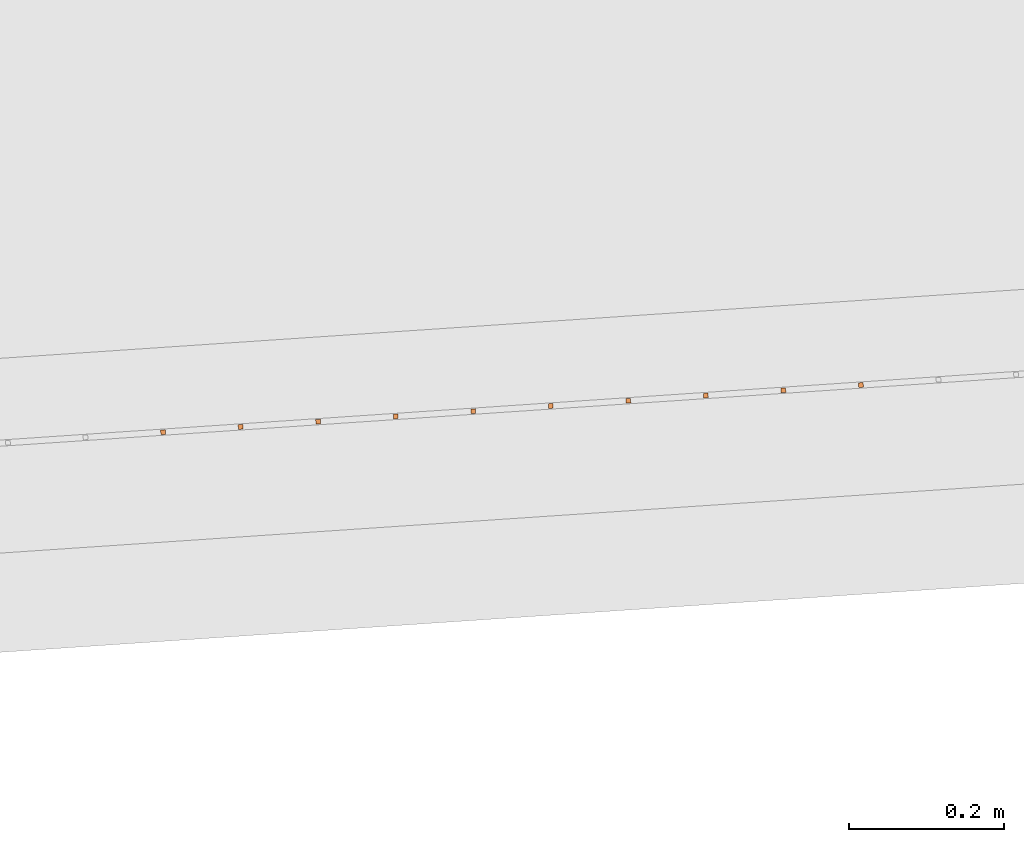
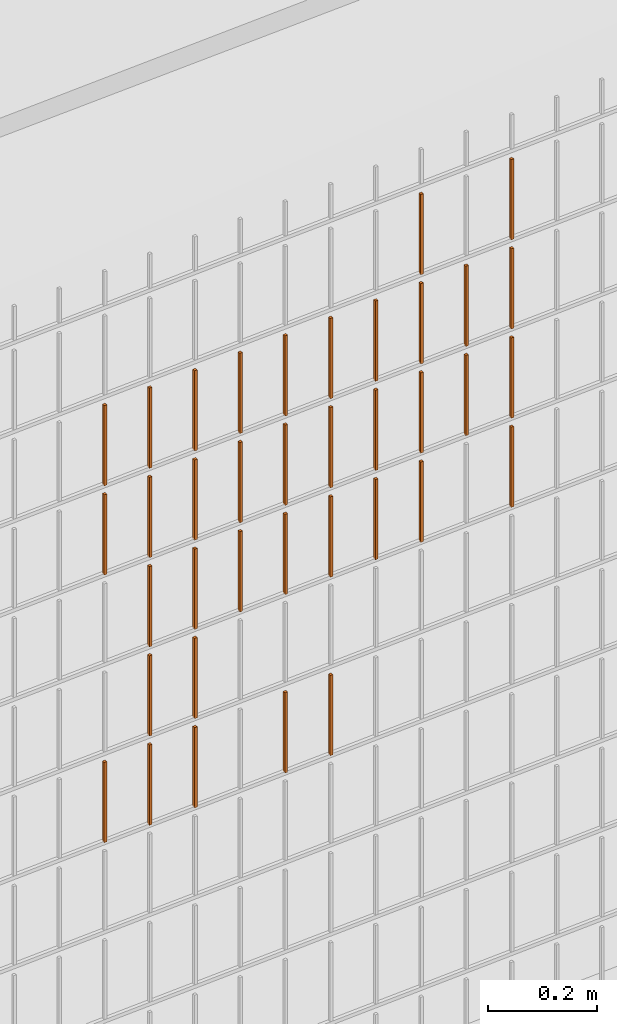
# One storey, part 272 of 1809: 37 proxies, 1 element without a shape of its own.
"""IFC2X3 building model written with IfcOpenShell, lengths in millimetres."""

from ifc_helpers import new_model, entity, si_unit, converted_unit, derived_unit, money_unit, direction, frame, origin_with_axes, place, context, subcontext, project, spatial, faceted_brep, source, transform, mapped, material, type_object, element, aggregate, save


model = new_model("IFC2X3")

# Units and contexts
model_context = context("Model", 3, precision=0.01, world=origin_with_axes(), true_north=direction((0.0, 1.0)))
body_context = subcontext(model_context, "Body", "Model", "MODEL_VIEW")
ifc_project = project(units=[si_unit("LENGTHUNIT", "METRE", prefix="MILLI"), si_unit("AREAUNIT", "SQUARE_METRE"), si_unit("VOLUMEUNIT", "CUBIC_METRE"), converted_unit("PLANEANGLEUNIT", "DEGREE", entity("IfcPlaneAngleMeasure", 0.0174532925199), si_unit("PLANEANGLEUNIT", "RADIAN"), dimensions=[0, 0, 0, 0, 0, 0, 0]), si_unit("SOLIDANGLEUNIT", "STERADIAN"), money_unit("EUR"), converted_unit("TIMEUNIT", "Year", entity("IfcTimeMeasure", 31556926.0), si_unit("TIMEUNIT", "SECOND"), dimensions=[0, 0, 1, 0, 0, 0, 0]), si_unit("MASSUNIT", "GRAM", prefix="KILO"), si_unit("THERMODYNAMICTEMPERATUREUNIT", "DEGREE_CELSIUS"), si_unit("LUMINOUSINTENSITYUNIT", "LUMEN"), si_unit("ENERGYUNIT", "JOULE", prefix="MEGA"), derived_unit("THERMALCONDUCTANCEUNIT", [(si_unit("POWERUNIT", "WATT"), 1), (si_unit("LENGTHUNIT", "METRE"), -1), (si_unit("THERMODYNAMICTEMPERATUREUNIT", "KELVIN"), -1)]), derived_unit("SPECIFICHEATCAPACITYUNIT", [(si_unit("ENERGYUNIT", "JOULE"), 1), (si_unit("MASSUNIT", "GRAM", prefix="KILO"), -1), (si_unit("THERMODYNAMICTEMPERATUREUNIT", "KELVIN"), -1)]), derived_unit("MASSDENSITYUNIT", [(si_unit("MASSUNIT", "GRAM", prefix="KILO"), 1), (si_unit("VOLUMEUNIT", "CUBIC_METRE"), -1)])], contexts=[model_context])

# Site, building, storey
site_placement = place(None, origin_with_axes())
site = spatial("IfcSite", under=ifc_project, at=site_placement, Name="Politse- ja Piirivalveameti ning Päästeameti ühishoone", CompositionType="ELEMENT")
building_placement = place(site_placement, origin_with_axes())
building = spatial("IfcBuilding", under=site, at=building_placement, Name="Politse- ja Piirivalveameti ning Päästeameti ühishoone", CompositionType="ELEMENT")
storey_placement = place(building_placement, origin_with_axes())
storey = spatial("IfcBuildingStorey", under=building, at=storey_placement, Name="Esimene korrus", CompositionType="ELEMENT", Elevation=0.0)

# Proxies
building_element_proxy_type_1 = type_object("IfcBuildingElementProxyType", Name="Railing Type", PredefinedType="NOTDEFINED")
proxy_1_placement = place(storey_placement, frame((89252.001212, -29183.4766571, 203.661247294), z_axis=(0.0, 0.0, 1.0), x_axis=(1.0, 0.0, 0.0)))
proxy_1 = element("IfcBuildingElementProxy", 1, at=proxy_1_placement, inside=storey, type_object=building_element_proxy_type_1, Name="PIIRDEAED")
ifc_material = material(Name="ET-03_Raud")
building_element_proxy_type_2 = type_object("IfcBuildingElementProxyType", Name="IfcBuildingElementProxy", PredefinedType="NOTDEFINED")
shared_shape_1 = source(origin_with_axes(), body_context, "Body", "Brep", [
    faceted_brep([(3.0, 3.0, -0.000752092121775), (-3.0, 3.0, -0.000752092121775), (-3.0, 3.0, 179.99926046), (3.0, 3.0, 179.99926046), (3.0, -3.0, 0.000752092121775), (-3.0, -3.0, 0.000752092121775), (-3.0, -3.0, 180.000764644), (3.0, -3.0, 180.000764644)], [[[0, 1, 2, 3]], [[0, 4, 5, 1]], [[1, 5, 6, 2]], [[3, 2, 6, 7]], [[4, 0, 3, 7]], [[5, 4, 7, 6]]]),
])
proxy_2_placement = place(proxy_1_placement, frame((-53404.9966627, -20905.080743, 1213.8153854), z_axis=(0.0, 0.0, 1.0), x_axis=(1.0, 0.0, 0.0)))
proxy_2 = element("IfcBuildingElementProxy", 2, at=proxy_2_placement, type_object=building_element_proxy_type_2, material=ifc_material, Name="BALUSTER - 001", context=body_context, shape_type="MappedRepresentation", body=[
    mapped(shared_shape_1, transform((0.0, 0.0, 0.0), x_axis=(-0.0673926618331, 0.997726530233, 0.0), y_axis=(-0.997726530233, -0.0673926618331, 0.0), z_axis=(0.0, 0.0, 1.0))),
])
shared_shape_2 = source(origin_with_axes(), body_context, "Body", "Brep", [
    faceted_brep([(3.0, 3.0, -0.000752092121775), (-3.0, 3.0, -0.000752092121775), (-3.0, 3.0, 179.99926046), (3.0, 3.0, 179.99926046), (3.0, -3.0, 0.000752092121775), (-3.0, -3.0, 0.000752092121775), (-3.0, -3.0, 180.000764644), (3.0, -3.0, 180.000764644)], [[[0, 1, 2, 3]], [[0, 4, 5, 1]], [[1, 5, 6, 2]], [[3, 2, 6, 7]], [[4, 0, 3, 7]], [[5, 4, 7, 6]]]),
])
proxy_3_placement = place(proxy_1_placement, frame((-53404.9966627, -20905.080743, 1813.8153854), z_axis=(0.0, 0.0, 1.0), x_axis=(1.0, 0.0, 0.0)))
proxy_3 = element("IfcBuildingElementProxy", 3, at=proxy_3_placement, type_object=building_element_proxy_type_2, material=ifc_material, Name="BALUSTER - 001", context=body_context, shape_type="MappedRepresentation", body=[
    mapped(shared_shape_2, transform((0.0, 0.0, 0.0), x_axis=(-0.0673926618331, 0.997726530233, 0.0), y_axis=(-0.997726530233, -0.0673926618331, 0.0), z_axis=(0.0, 0.0, 1.0))),
])
shared_shape_3 = source(origin_with_axes(), body_context, "Body", "Brep", [
    faceted_brep([(3.0, 3.0, -0.000752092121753), (-3.0, 3.0, -0.000752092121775), (-3.0, 3.0, 179.99926046), (3.0, 3.0, 179.99926046), (3.0, -3.0, 0.000752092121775), (-3.0, -3.0, 0.000752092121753), (-3.0, -3.0, 180.000764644), (3.0, -3.0, 180.000764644)], [[[0, 1, 2, 3]], [[0, 4, 5, 1]], [[1, 5, 6, 2]], [[3, 2, 6, 7]], [[4, 0, 3, 7]], [[5, 4, 7, 6]]]),
])
proxy_4_placement = place(proxy_1_placement, frame((-53604.5419687, -20918.5592753, 1413.76524593), z_axis=(0.0, 0.0, 1.0), x_axis=(1.0, 0.0, 0.0)))
proxy_4 = element("IfcBuildingElementProxy", 4, at=proxy_4_placement, type_object=building_element_proxy_type_2, material=ifc_material, Name="BALUSTER - 001", context=body_context, shape_type="MappedRepresentation", body=[
    mapped(shared_shape_3, transform((0.0, 0.0, 0.0), x_axis=(-0.0673926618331, 0.997726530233, 0.0), y_axis=(-0.997726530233, -0.0673926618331, 0.0), z_axis=(0.0, 0.0, 1.0))),
])
proxy_5_placement = place(proxy_1_placement, frame((-53704.3146217, -20925.2985415, 1413.74017619), z_axis=(0.0, 0.0, 1.0), x_axis=(1.0, 0.0, 0.0)))
proxy_5 = element("IfcBuildingElementProxy", 5, at=proxy_5_placement, type_object=building_element_proxy_type_2, material=ifc_material, Name="BALUSTER - 001", context=body_context, shape_type="MappedRepresentation", body=[
    mapped(shared_shape_3, transform((0.0, 0.0, 0.0), x_axis=(-0.0673926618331, 0.997726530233, 0.0), y_axis=(-0.997726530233, -0.0673926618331, 0.0), z_axis=(0.0, 0.0, 1.0))),
])
proxy_6_placement = place(proxy_1_placement, frame((-53604.5419687, -20918.5592753, 1613.76524593), z_axis=(0.0, 0.0, 1.0), x_axis=(1.0, 0.0, 0.0)))
proxy_6 = element("IfcBuildingElementProxy", 6, at=proxy_6_placement, type_object=building_element_proxy_type_2, material=ifc_material, Name="BALUSTER - 001", context=body_context, shape_type="MappedRepresentation", body=[
    mapped(shared_shape_3, transform((0.0, 0.0, 0.0), x_axis=(-0.0673926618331, 0.997726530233, 0.0), y_axis=(-0.997726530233, -0.0673926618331, 0.0), z_axis=(0.0, 0.0, 1.0))),
])
proxy_7_placement = place(proxy_1_placement, frame((-53704.3146217, -20925.2985415, 1613.74017619), z_axis=(0.0, 0.0, 1.0), x_axis=(1.0, 0.0, 0.0)))
proxy_7 = element("IfcBuildingElementProxy", 7, at=proxy_7_placement, type_object=building_element_proxy_type_2, material=ifc_material, Name="BALUSTER - 001", context=body_context, shape_type="MappedRepresentation", body=[
    mapped(shared_shape_3, transform((0.0, 0.0, 0.0), x_axis=(-0.0673926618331, 0.997726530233, 0.0), y_axis=(-0.997726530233, -0.0673926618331, 0.0), z_axis=(0.0, 0.0, 1.0))),
])
shared_shape_4 = source(origin_with_axes(), body_context, "Body", "Brep", [
    faceted_brep([(3.0, 3.0, -0.000752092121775), (-3.0, 3.0, -0.000752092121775), (-3.0, 3.0, 179.99926046), (3.0, 3.0, 179.99926046), (3.0, -3.0, 0.000752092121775), (-3.0, -3.0, 0.000752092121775), (-3.0, -3.0, 180.000764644), (3.0, -3.0, 180.000764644)], [[[0, 1, 2, 3]], [[0, 4, 5, 1]], [[1, 5, 6, 2]], [[3, 2, 6, 7]], [[4, 0, 3, 7]], [[5, 4, 7, 6]]]),
])
proxy_8_placement = place(proxy_1_placement, frame((-53205.4513566, -20891.6022106, 1413.86552488), z_axis=(0.0, 0.0, 1.0), x_axis=(1.0, 0.0, 0.0)))
proxy_8 = element("IfcBuildingElementProxy", 8, at=proxy_8_placement, type_object=building_element_proxy_type_2, material=ifc_material, Name="BALUSTER - 001", context=body_context, shape_type="MappedRepresentation", body=[
    mapped(shared_shape_4, transform((0.0, 0.0, 0.0), x_axis=(-0.0673926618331, 0.997726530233, 0.0), y_axis=(-0.997726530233, -0.0673926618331, 0.0), z_axis=(0.0, 0.0, 1.0))),
])
proxy_9_placement = place(proxy_1_placement, frame((-53205.4513566, -20891.6022106, 1613.86552488), z_axis=(0.0, 0.0, 1.0), x_axis=(1.0, 0.0, 0.0)))
proxy_9 = element("IfcBuildingElementProxy", 9, at=proxy_9_placement, type_object=building_element_proxy_type_2, material=ifc_material, Name="BALUSTER - 001", context=body_context, shape_type="MappedRepresentation", body=[
    mapped(shared_shape_4, transform((0.0, 0.0, 0.0), x_axis=(-0.0673926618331, 0.997726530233, 0.0), y_axis=(-0.997726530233, -0.0673926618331, 0.0), z_axis=(0.0, 0.0, 1.0))),
])
shared_shape_5 = source(origin_with_axes(), body_context, "Body", "Brep", [
    faceted_brep([(3.0, 3.0, -0.000752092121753), (-3.0, 3.0, -0.000752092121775), (-3.0, 3.0, 179.99926046), (3.0, 3.0, 179.99926046), (3.0, -3.0, 0.000752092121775), (-3.0, -3.0, 0.000752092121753), (-3.0, -3.0, 180.000764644), (3.0, -3.0, 180.000764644)], [[[0, 1, 2, 3]], [[0, 4, 5, 1]], [[1, 5, 6, 2]], [[3, 2, 6, 7]], [[4, 0, 3, 7]], [[5, 4, 7, 6]]]),
])
proxy_10_placement = place(proxy_1_placement, frame((-53604.5419687, -20918.5592753, 813.765245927), z_axis=(0.0, 0.0, 1.0), x_axis=(1.0, 0.0, 0.0)))
proxy_10 = element("IfcBuildingElementProxy", 10, at=proxy_10_placement, type_object=building_element_proxy_type_2, material=ifc_material, Name="BALUSTER - 001", context=body_context, shape_type="MappedRepresentation", body=[
    mapped(shared_shape_5, transform((0.0, 0.0, 0.0), x_axis=(-0.0673926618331, 0.997726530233, 0.0), y_axis=(-0.997726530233, -0.0673926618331, 0.0), z_axis=(0.0, 0.0, 1.0))),
])
proxy_11_placement = place(proxy_1_placement, frame((-53704.3146217, -20925.2985415, 813.740176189), z_axis=(0.0, 0.0, 1.0), x_axis=(1.0, 0.0, 0.0)))
proxy_11 = element("IfcBuildingElementProxy", 11, at=proxy_11_placement, type_object=building_element_proxy_type_2, material=ifc_material, Name="BALUSTER - 001", context=body_context, shape_type="MappedRepresentation", body=[
    mapped(shared_shape_5, transform((0.0, 0.0, 0.0), x_axis=(-0.0673926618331, 0.997726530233, 0.0), y_axis=(-0.997726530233, -0.0673926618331, 0.0), z_axis=(0.0, 0.0, 1.0))),
])
proxy_12_placement = place(proxy_1_placement, frame((-53604.5419687, -20918.5592753, 1213.76524593), z_axis=(0.0, 0.0, 1.0), x_axis=(1.0, 0.0, 0.0)))
proxy_12 = element("IfcBuildingElementProxy", 12, at=proxy_12_placement, type_object=building_element_proxy_type_2, material=ifc_material, Name="BALUSTER - 001", context=body_context, shape_type="MappedRepresentation", body=[
    mapped(shared_shape_5, transform((0.0, 0.0, 0.0), x_axis=(-0.0673926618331, 0.997726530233, 0.0), y_axis=(-0.997726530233, -0.0673926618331, 0.0), z_axis=(0.0, 0.0, 1.0))),
])
proxy_13_placement = place(proxy_1_placement, frame((-53704.3146217, -20925.2985415, 1213.74017619), z_axis=(0.0, 0.0, 1.0), x_axis=(1.0, 0.0, 0.0)))
proxy_13 = element("IfcBuildingElementProxy", 13, at=proxy_13_placement, type_object=building_element_proxy_type_2, material=ifc_material, Name="BALUSTER - 001", context=body_context, shape_type="MappedRepresentation", body=[
    mapped(shared_shape_5, transform((0.0, 0.0, 0.0), x_axis=(-0.0673926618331, 0.997726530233, 0.0), y_axis=(-0.997726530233, -0.0673926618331, 0.0), z_axis=(0.0, 0.0, 1.0))),
])
shared_shape_6 = source(origin_with_axes(), body_context, "Body", "Brep", [
    faceted_brep([(3.0, 3.0, -0.000752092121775), (-3.0, 3.0, -0.000752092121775), (-3.0, 3.0, 179.99926046), (3.0, 3.0, 179.99926046), (3.0, -3.0, 0.000752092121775), (-3.0, -3.0, 0.000752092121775), (-3.0, -3.0, 180.000764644), (3.0, -3.0, 180.000764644)], [[[0, 1, 2, 3]], [[0, 4, 5, 1]], [[1, 5, 6, 2]], [[3, 2, 6, 7]], [[4, 0, 3, 7]], [[5, 4, 7, 6]]]),
])
proxy_14_placement = place(proxy_1_placement, frame((-53205.4513566, -20891.6022106, 1213.86552488), z_axis=(0.0, 0.0, 1.0), x_axis=(1.0, 0.0, 0.0)))
proxy_14 = element("IfcBuildingElementProxy", 14, at=proxy_14_placement, type_object=building_element_proxy_type_2, material=ifc_material, Name="BALUSTER - 001", context=body_context, shape_type="MappedRepresentation", body=[
    mapped(shared_shape_6, transform((0.0, 0.0, 0.0), x_axis=(-0.0673926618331, 0.997726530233, 0.0), y_axis=(-0.997726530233, -0.0673926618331, 0.0), z_axis=(0.0, 0.0, 1.0))),
])
shared_shape_7 = source(origin_with_axes(), body_context, "Body", "Brep", [
    faceted_brep([(3.0, 3.0, -0.000752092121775), (-3.0, 3.0, -0.000752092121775), (-3.0, 3.0, 179.99926046), (3.0, 3.0, 179.99926046), (3.0, -3.0, 0.000752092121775), (-3.0, -3.0, 0.000752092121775), (-3.0, -3.0, 180.000764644), (3.0, -3.0, 180.000764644)], [[[0, 1, 2, 3]], [[0, 4, 5, 1]], [[1, 5, 6, 2]], [[3, 2, 6, 7]], [[4, 0, 3, 7]], [[5, 4, 7, 6]]]),
])
proxy_15_placement = place(proxy_1_placement, frame((-53205.4513566, -20891.6022106, 1813.86552488), z_axis=(0.0, 0.0, 1.0), x_axis=(1.0, 0.0, 0.0)))
proxy_15 = element("IfcBuildingElementProxy", 15, at=proxy_15_placement, type_object=building_element_proxy_type_2, material=ifc_material, Name="BALUSTER - 001", context=body_context, shape_type="MappedRepresentation", body=[
    mapped(shared_shape_7, transform((0.0, 0.0, 0.0), x_axis=(-0.0673926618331, 0.997726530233, 0.0), y_axis=(-0.997726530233, -0.0673926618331, 0.0), z_axis=(0.0, 0.0, 1.0))),
])
shared_shape_8 = source(origin_with_axes(), body_context, "Body", "Brep", [
    faceted_brep([(3.0, 3.0, -0.000752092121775), (-3.0, 3.0, -0.000752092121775), (-3.0, 3.0, 179.99926046), (3.0, 3.0, 179.99926046), (3.0, -3.0, 0.000752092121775), (-3.0, -3.0, 0.000752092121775), (-3.0, -3.0, 180.000764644), (3.0, -3.0, 180.000764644)], [[[0, 1, 2, 3]], [[0, 4, 5, 1]], [[1, 5, 6, 2]], [[3, 2, 6, 7]], [[4, 0, 3, 7]], [[5, 4, 7, 6]]]),
])
proxy_16_placement = place(proxy_1_placement, frame((-53404.9966627, -20905.080743, 1413.8153854), z_axis=(0.0, 0.0, 1.0), x_axis=(1.0, 0.0, 0.0)))
proxy_16 = element("IfcBuildingElementProxy", 16, at=proxy_16_placement, type_object=building_element_proxy_type_2, material=ifc_material, Name="BALUSTER - 001", context=body_context, shape_type="MappedRepresentation", body=[
    mapped(shared_shape_8, transform((0.0, 0.0, 0.0), x_axis=(-0.0673926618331, 0.997726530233, 0.0), y_axis=(-0.997726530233, -0.0673926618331, 0.0), z_axis=(0.0, 0.0, 1.0))),
])
proxy_17_placement = place(proxy_1_placement, frame((-53404.9966627, -20905.080743, 1613.8153854), z_axis=(0.0, 0.0, 1.0), x_axis=(1.0, 0.0, 0.0)))
proxy_17 = element("IfcBuildingElementProxy", 17, at=proxy_17_placement, type_object=building_element_proxy_type_2, material=ifc_material, Name="BALUSTER - 001", context=body_context, shape_type="MappedRepresentation", body=[
    mapped(shared_shape_8, transform((0.0, 0.0, 0.0), x_axis=(-0.0673926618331, 0.997726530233, 0.0), y_axis=(-0.997726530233, -0.0673926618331, 0.0), z_axis=(0.0, 0.0, 1.0))),
])
shared_shape_9 = source(origin_with_axes(), body_context, "Body", "Brep", [
    faceted_brep([(3.0, 3.0, -0.000752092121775), (-3.0, 3.0, -0.000752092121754), (-3.0, 3.0, 179.99926046), (3.0, 3.0, 179.99926046), (3.0, -3.0, 0.000752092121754), (-3.0, -3.0, 0.000752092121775), (-3.0, -3.0, 180.000764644), (3.0, -3.0, 180.000764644)], [[[0, 1, 2, 3]], [[0, 4, 5, 1]], [[1, 5, 6, 2]], [[3, 2, 6, 7]], [[4, 0, 3, 7]], [[5, 4, 7, 6]]]),
])
proxy_18_placement = place(proxy_1_placement, frame((-53504.7693157, -20911.8200092, 1213.79031566), z_axis=(0.0, 0.0, 1.0), x_axis=(1.0, 0.0, 0.0)))
proxy_18 = element("IfcBuildingElementProxy", 18, at=proxy_18_placement, type_object=building_element_proxy_type_2, material=ifc_material, Name="BALUSTER - 001", context=body_context, shape_type="MappedRepresentation", body=[
    mapped(shared_shape_9, transform((0.0, 0.0, 0.0), x_axis=(-0.0673926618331, 0.997726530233, 0.0), y_axis=(-0.997726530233, -0.0673926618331, 0.0), z_axis=(0.0, 0.0, 1.0))),
])
shared_shape_10 = source(origin_with_axes(), body_context, "Body", "Brep", [
    faceted_brep([(3.0, 3.0, -0.000752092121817), (-3.0, 3.0, -0.000752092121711), (-3.0, 3.0, 179.99926046), (3.0, 3.0, 179.99926046), (3.0, -3.0, 0.000752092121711), (-3.0, -3.0, 0.000752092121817), (-3.0, -3.0, 180.000764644), (3.0, -3.0, 180.000764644)], [[[0, 1, 2, 3]], [[0, 4, 5, 1]], [[1, 5, 6, 2]], [[3, 2, 6, 7]], [[4, 0, 3, 7]], [[5, 4, 7, 6]]]),
])
proxy_19_placement = place(proxy_1_placement, frame((-53903.8599278, -20938.7770739, 1013.69003671), z_axis=(0.0, 0.0, 1.0), x_axis=(1.0, 0.0, 0.0)))
proxy_19 = element("IfcBuildingElementProxy", 19, at=proxy_19_placement, type_object=building_element_proxy_type_2, material=ifc_material, Name="BALUSTER - 001", context=body_context, shape_type="MappedRepresentation", body=[
    mapped(shared_shape_10, transform((0.0, 0.0, 0.0), x_axis=(-0.0673926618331, 0.997726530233, 0.0), y_axis=(-0.997726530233, -0.0673926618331, 0.0), z_axis=(0.0, 0.0, 1.0))),
])
shared_shape_11 = source(origin_with_axes(), body_context, "Body", "Brep", [
    faceted_brep([(3.0, 3.0, -0.000752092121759), (-3.0, 3.0, -0.00075209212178), (-3.0, 3.0, 179.99926046), (3.0, 3.0, 179.99926046), (3.0, -3.0, 0.00075209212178), (-3.0, -3.0, 0.000752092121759), (-3.0, -3.0, 180.000764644), (3.0, -3.0, 180.000764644)], [[[0, 1, 2, 3]], [[0, 4, 5, 1]], [[1, 5, 6, 2]], [[3, 2, 6, 7]], [[4, 0, 3, 7]], [[5, 4, 7, 6]]]),
])
proxy_20_placement = place(proxy_1_placement, frame((-54003.6325808, -20945.5163401, 813.664966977), z_axis=(0.0, 0.0, 1.0), x_axis=(1.0, 0.0, 0.0)))
proxy_20 = element("IfcBuildingElementProxy", 20, at=proxy_20_placement, type_object=building_element_proxy_type_2, material=ifc_material, Name="BALUSTER - 001", context=body_context, shape_type="MappedRepresentation", body=[
    mapped(shared_shape_11, transform((0.0, 0.0, 0.0), x_axis=(-0.0673926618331, 0.997726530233, 0.0), y_axis=(-0.997726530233, -0.0673926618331, 0.0), z_axis=(0.0, 0.0, 1.0))),
])
shared_shape_12 = source(origin_with_axes(), body_context, "Body", "Brep", [
    faceted_brep([(3.0, 3.0, -0.000752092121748), (-3.0, 3.0, -0.00075209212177), (-3.0, 3.0, 179.99926046), (3.0, 3.0, 179.99926046), (3.0, -3.0, 0.00075209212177), (-3.0, -3.0, 0.000752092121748), (-3.0, -3.0, 180.000764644), (3.0, -3.0, 180.000764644)], [[[0, 1, 2, 3]], [[0, 4, 5, 1]], [[1, 5, 6, 2]], [[3, 2, 6, 7]], [[4, 0, 3, 7]], [[5, 4, 7, 6]]]),
])
proxy_21_placement = place(proxy_1_placement, frame((-53903.8599278, -20938.7770739, 813.690036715), z_axis=(0.0, 0.0, 1.0), x_axis=(1.0, 0.0, 0.0)))
proxy_21 = element("IfcBuildingElementProxy", 21, at=proxy_21_placement, type_object=building_element_proxy_type_2, material=ifc_material, Name="BALUSTER - 001", context=body_context, shape_type="MappedRepresentation", body=[
    mapped(shared_shape_12, transform((0.0, 0.0, 0.0), x_axis=(-0.0673926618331, 0.997726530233, 0.0), y_axis=(-0.997726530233, -0.0673926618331, 0.0), z_axis=(0.0, 0.0, 1.0))),
])
shared_shape_13 = source(origin_with_axes(), body_context, "Body", "Brep", [
    faceted_brep([(3.0, 3.0, -0.000752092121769), (-3.0, 3.0, -0.00075209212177), (-3.0, 3.0, 179.99926046), (3.0, 3.0, 179.99926046), (3.0, -3.0, 0.00075209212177), (-3.0, -3.0, 0.000752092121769), (-3.0, -3.0, 180.000764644), (3.0, -3.0, 180.000764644)], [[[0, 1, 2, 3]], [[0, 4, 5, 1]], [[1, 5, 6, 2]], [[3, 2, 6, 7]], [[4, 0, 3, 7]], [[5, 4, 7, 6]]]),
])
proxy_22_placement = place(proxy_1_placement, frame((-54103.4052338, -20952.2556063, 813.63989724), z_axis=(0.0, 0.0, 1.0), x_axis=(1.0, 0.0, 0.0)))
proxy_22 = element("IfcBuildingElementProxy", 22, at=proxy_22_placement, type_object=building_element_proxy_type_2, material=ifc_material, Name="BALUSTER - 001", context=body_context, shape_type="MappedRepresentation", body=[
    mapped(shared_shape_13, transform((0.0, 0.0, 0.0), x_axis=(-0.0673926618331, 0.997726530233, 0.0), y_axis=(-0.997726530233, -0.0673926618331, 0.0), z_axis=(0.0, 0.0, 1.0))),
])
shared_shape_14 = source(origin_with_axes(), body_context, "Body", "Brep", [
    faceted_brep([(3.0, 3.0, -0.000752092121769), (-3.0, 3.0, -0.00075209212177), (-3.0, 3.0, 179.99926046), (3.0, 3.0, 179.99926046), (3.0, -3.0, 0.00075209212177), (-3.0, -3.0, 0.000752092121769), (-3.0, -3.0, 180.000764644), (3.0, -3.0, 180.000764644)], [[[0, 1, 2, 3]], [[0, 4, 5, 1]], [[1, 5, 6, 2]], [[3, 2, 6, 7]], [[4, 0, 3, 7]], [[5, 4, 7, 6]]]),
])
proxy_23_placement = place(proxy_1_placement, frame((-53903.8599278, -20938.7770739, 1213.69003671), z_axis=(0.0, 0.0, 1.0), x_axis=(1.0, 0.0, 0.0)))
proxy_23 = element("IfcBuildingElementProxy", 23, at=proxy_23_placement, type_object=building_element_proxy_type_2, material=ifc_material, Name="BALUSTER - 001", context=body_context, shape_type="MappedRepresentation", body=[
    mapped(shared_shape_14, transform((0.0, 0.0, 0.0), x_axis=(-0.0673926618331, 0.997726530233, 0.0), y_axis=(-0.997726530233, -0.0673926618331, 0.0), z_axis=(0.0, 0.0, 1.0))),
])
shared_shape_15 = source(origin_with_axes(), body_context, "Body", "Brep", [
    faceted_brep([(3.0, 3.0, -0.000752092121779), (-3.0, 3.0, -0.000752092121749), (-3.00000000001, 3.0, 179.99926046), (2.99999999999, 3.0, 179.99926046), (3.0, -3.0, 0.000752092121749), (-3.0, -3.0, 0.000752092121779), (-3.00000000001, -3.0, 180.000764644), (2.99999999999, -3.0, 180.000764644)], [[[0, 1, 2, 3]], [[0, 4, 5, 1]], [[1, 5, 6, 2]], [[3, 2, 6, 7]], [[4, 0, 3, 7]], [[5, 4, 7, 6]]]),
])
proxy_24_placement = place(proxy_1_placement, frame((-54003.6325808, -20945.5163401, 1013.66496698), z_axis=(0.0, 0.0, 1.0), x_axis=(1.0, 0.0, 0.0)))
proxy_24 = element("IfcBuildingElementProxy", 24, at=proxy_24_placement, type_object=building_element_proxy_type_2, material=ifc_material, Name="BALUSTER - 001", context=body_context, shape_type="MappedRepresentation", body=[
    mapped(shared_shape_15, transform((0.0, 0.0, 0.0), x_axis=(-0.0673926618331, 0.997726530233, 0.0), y_axis=(-0.997726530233, -0.0673926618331, 0.0), z_axis=(0.0, 0.0, 1.0))),
])
shared_shape_16 = source(origin_with_axes(), body_context, "Body", "Brep", [
    faceted_brep([(3.0, 3.0, -0.000752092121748), (-3.0, 3.0, -0.00075209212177), (-3.0, 3.0, 179.99926046), (3.0, 3.0, 179.99926046), (3.0, -3.0, 0.00075209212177), (-3.0, -3.0, 0.000752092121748), (-3.0, -3.0, 180.000764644), (3.0, -3.0, 180.000764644)], [[[0, 1, 2, 3]], [[0, 4, 5, 1]], [[1, 5, 6, 2]], [[3, 2, 6, 7]], [[4, 0, 3, 7]], [[5, 4, 7, 6]]]),
])
proxy_25_placement = place(proxy_1_placement, frame((-53804.0872747, -20932.0378077, 1213.71510645), z_axis=(0.0, 0.0, 1.0), x_axis=(1.0, 0.0, 0.0)))
proxy_25 = element("IfcBuildingElementProxy", 25, at=proxy_25_placement, type_object=building_element_proxy_type_2, material=ifc_material, Name="BALUSTER - 001", context=body_context, shape_type="MappedRepresentation", body=[
    mapped(shared_shape_16, transform((0.0, 0.0, 0.0), x_axis=(-0.0673926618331, 0.997726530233, 0.0), y_axis=(-0.997726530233, -0.0673926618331, 0.0), z_axis=(0.0, 0.0, 1.0))),
])
shared_shape_17 = source(origin_with_axes(), body_context, "Body", "Brep", [
    faceted_brep([(3.0, 3.0, -0.00075209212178), (-3.0, 3.0, -0.000752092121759), (-3.0, 3.0, 179.99926046), (3.0, 3.0, 179.99926046), (3.0, -3.0, 0.000752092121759), (-3.0, -3.0, 0.00075209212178), (-3.0, -3.0, 180.000764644), (3.0, -3.0, 180.000764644)], [[[0, 1, 2, 3]], [[0, 4, 5, 1]], [[1, 5, 6, 2]], [[3, 2, 6, 7]], [[4, 0, 3, 7]], [[5, 4, 7, 6]]]),
])
proxy_26_placement = place(proxy_1_placement, frame((-54003.6325808, -20945.5163401, 1213.66496698), z_axis=(0.0, 0.0, 1.0), x_axis=(1.0, 0.0, 0.0)))
proxy_26 = element("IfcBuildingElementProxy", 26, at=proxy_26_placement, type_object=building_element_proxy_type_2, material=ifc_material, Name="BALUSTER - 001", context=body_context, shape_type="MappedRepresentation", body=[
    mapped(shared_shape_17, transform((0.0, 0.0, 0.0), x_axis=(-0.0673926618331, 0.997726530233, 0.0), y_axis=(-0.997726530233, -0.0673926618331, 0.0), z_axis=(0.0, 0.0, 1.0))),
])
shared_shape_18 = source(origin_with_axes(), body_context, "Body", "Brep", [
    faceted_brep([(3.0, 3.0, -0.000752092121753), (-3.0, 3.0, -0.000752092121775), (-3.0, 3.0, 179.99926046), (3.0, 3.0, 179.99926046), (3.0, -3.0, 0.000752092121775), (-3.0, -3.0, 0.000752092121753), (-3.0, -3.0, 180.000764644), (3.0, -3.0, 180.000764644)], [[[0, 1, 2, 3]], [[0, 4, 5, 1]], [[1, 5, 6, 2]], [[3, 2, 6, 7]], [[4, 0, 3, 7]], [[5, 4, 7, 6]]]),
])
proxy_27_placement = place(proxy_1_placement, frame((-53305.2240096, -20898.3414768, 1413.84045514), z_axis=(0.0, 0.0, 1.0), x_axis=(1.0, 0.0, 0.0)))
proxy_27 = element("IfcBuildingElementProxy", 27, at=proxy_27_placement, type_object=building_element_proxy_type_2, material=ifc_material, Name="BALUSTER - 001", context=body_context, shape_type="MappedRepresentation", body=[
    mapped(shared_shape_18, transform((0.0, 0.0, 0.0), x_axis=(-0.0673926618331, 0.997726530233, 0.0), y_axis=(-0.997726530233, -0.0673926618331, 0.0), z_axis=(0.0, 0.0, 1.0))),
])
proxy_28_placement = place(proxy_1_placement, frame((-53305.2240096, -20898.3414768, 1613.84045514), z_axis=(0.0, 0.0, 1.0), x_axis=(1.0, 0.0, 0.0)))
proxy_28 = element("IfcBuildingElementProxy", 28, at=proxy_28_placement, type_object=building_element_proxy_type_2, material=ifc_material, Name="BALUSTER - 001", context=body_context, shape_type="MappedRepresentation", body=[
    mapped(shared_shape_18, transform((0.0, 0.0, 0.0), x_axis=(-0.0673926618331, 0.997726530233, 0.0), y_axis=(-0.997726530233, -0.0673926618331, 0.0), z_axis=(0.0, 0.0, 1.0))),
])
shared_shape_19 = source(origin_with_axes(), body_context, "Body", "Brep", [
    faceted_brep([(3.0, 3.0, -0.000752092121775), (-3.0, 3.0, -0.000752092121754), (-3.0, 3.0, 179.99926046), (3.0, 3.0, 179.99926046), (3.0, -3.0, 0.000752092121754), (-3.0, -3.0, 0.000752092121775), (-3.0, -3.0, 180.000764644), (3.0, -3.0, 180.000764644)], [[[0, 1, 2, 3]], [[0, 4, 5, 1]], [[1, 5, 6, 2]], [[3, 2, 6, 7]], [[4, 0, 3, 7]], [[5, 4, 7, 6]]]),
])
proxy_29_placement = place(proxy_1_placement, frame((-53504.7693157, -20911.8200092, 1413.79031566), z_axis=(0.0, 0.0, 1.0), x_axis=(1.0, 0.0, 0.0)))
proxy_29 = element("IfcBuildingElementProxy", 29, at=proxy_29_placement, type_object=building_element_proxy_type_2, material=ifc_material, Name="BALUSTER - 001", context=body_context, shape_type="MappedRepresentation", body=[
    mapped(shared_shape_19, transform((0.0, 0.0, 0.0), x_axis=(-0.0673926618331, 0.997726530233, 0.0), y_axis=(-0.997726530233, -0.0673926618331, 0.0), z_axis=(0.0, 0.0, 1.0))),
])
proxy_30_placement = place(proxy_1_placement, frame((-53504.7693157, -20911.8200092, 1613.79031566), z_axis=(0.0, 0.0, 1.0), x_axis=(1.0, 0.0, 0.0)))
proxy_30 = element("IfcBuildingElementProxy", 30, at=proxy_30_placement, type_object=building_element_proxy_type_2, material=ifc_material, Name="BALUSTER - 001", context=body_context, shape_type="MappedRepresentation", body=[
    mapped(shared_shape_19, transform((0.0, 0.0, 0.0), x_axis=(-0.0673926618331, 0.997726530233, 0.0), y_axis=(-0.997726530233, -0.0673926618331, 0.0), z_axis=(0.0, 0.0, 1.0))),
])
shared_shape_20 = source(origin_with_axes(), body_context, "Body", "Brep", [
    faceted_brep([(3.0, 3.0, -0.000752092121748), (-3.0, 3.0, -0.00075209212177), (-3.0, 3.0, 179.99926046), (3.0, 3.0, 179.99926046), (3.0, -3.0, 0.00075209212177), (-3.0, -3.0, 0.000752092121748), (-3.0, -3.0, 180.000764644), (3.0, -3.0, 180.000764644)], [[[0, 1, 2, 3]], [[0, 4, 5, 1]], [[1, 5, 6, 2]], [[3, 2, 6, 7]], [[4, 0, 3, 7]], [[5, 4, 7, 6]]]),
])
proxy_31_placement = place(proxy_1_placement, frame((-53804.0872747, -20932.0378077, 1413.71510645), z_axis=(0.0, 0.0, 1.0), x_axis=(1.0, 0.0, 0.0)))
proxy_31 = element("IfcBuildingElementProxy", 31, at=proxy_31_placement, type_object=building_element_proxy_type_2, material=ifc_material, Name="BALUSTER - 001", context=body_context, shape_type="MappedRepresentation", body=[
    mapped(shared_shape_20, transform((0.0, 0.0, 0.0), x_axis=(-0.0673926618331, 0.997726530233, 0.0), y_axis=(-0.997726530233, -0.0673926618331, 0.0), z_axis=(0.0, 0.0, 1.0))),
])
proxy_32_placement = place(proxy_1_placement, frame((-53804.0872747, -20932.0378077, 1613.71510645), z_axis=(0.0, 0.0, 1.0), x_axis=(1.0, 0.0, 0.0)))
proxy_32 = element("IfcBuildingElementProxy", 32, at=proxy_32_placement, type_object=building_element_proxy_type_2, material=ifc_material, Name="BALUSTER - 001", context=body_context, shape_type="MappedRepresentation", body=[
    mapped(shared_shape_20, transform((0.0, 0.0, 0.0), x_axis=(-0.0673926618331, 0.997726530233, 0.0), y_axis=(-0.997726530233, -0.0673926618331, 0.0), z_axis=(0.0, 0.0, 1.0))),
])
shared_shape_21 = source(origin_with_axes(), body_context, "Body", "Brep", [
    faceted_brep([(3.0, 3.0, -0.000752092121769), (-3.0, 3.0, -0.00075209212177), (-3.0, 3.0, 179.99926046), (3.0, 3.0, 179.99926046), (3.0, -3.0, 0.00075209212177), (-3.0, -3.0, 0.000752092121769), (-3.0, -3.0, 180.000764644), (3.0, -3.0, 180.000764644)], [[[0, 1, 2, 3]], [[0, 4, 5, 1]], [[1, 5, 6, 2]], [[3, 2, 6, 7]], [[4, 0, 3, 7]], [[5, 4, 7, 6]]]),
])
proxy_33_placement = place(proxy_1_placement, frame((-53903.8599278, -20938.7770739, 1413.69003671), z_axis=(0.0, 0.0, 1.0), x_axis=(1.0, 0.0, 0.0)))
proxy_33 = element("IfcBuildingElementProxy", 33, at=proxy_33_placement, type_object=building_element_proxy_type_2, material=ifc_material, Name="BALUSTER - 001", context=body_context, shape_type="MappedRepresentation", body=[
    mapped(shared_shape_21, transform((0.0, 0.0, 0.0), x_axis=(-0.0673926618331, 0.997726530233, 0.0), y_axis=(-0.997726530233, -0.0673926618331, 0.0), z_axis=(0.0, 0.0, 1.0))),
])
proxy_34_placement = place(proxy_1_placement, frame((-53903.8599278, -20938.7770739, 1613.69003671), z_axis=(0.0, 0.0, 1.0), x_axis=(1.0, 0.0, 0.0)))
proxy_34 = element("IfcBuildingElementProxy", 34, at=proxy_34_placement, type_object=building_element_proxy_type_2, material=ifc_material, Name="BALUSTER - 001", context=body_context, shape_type="MappedRepresentation", body=[
    mapped(shared_shape_21, transform((0.0, 0.0, 0.0), x_axis=(-0.0673926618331, 0.997726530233, 0.0), y_axis=(-0.997726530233, -0.0673926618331, 0.0), z_axis=(0.0, 0.0, 1.0))),
])
shared_shape_22 = source(origin_with_axes(), body_context, "Body", "Brep", [
    faceted_brep([(3.0, 3.0, -0.00075209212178), (-3.0, 3.0, -0.000752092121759), (-3.0, 3.0, 179.99926046), (3.0, 3.0, 179.99926046), (3.0, -3.0, 0.000752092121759), (-3.0, -3.0, 0.00075209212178), (-3.0, -3.0, 180.000764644), (3.0, -3.0, 180.000764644)], [[[0, 1, 2, 3]], [[0, 4, 5, 1]], [[1, 5, 6, 2]], [[3, 2, 6, 7]], [[4, 0, 3, 7]], [[5, 4, 7, 6]]]),
])
proxy_35_placement = place(proxy_1_placement, frame((-54003.6325808, -20945.5163401, 1413.66496698), z_axis=(0.0, 0.0, 1.0), x_axis=(1.0, 0.0, 0.0)))
proxy_35 = element("IfcBuildingElementProxy", 35, at=proxy_35_placement, type_object=building_element_proxy_type_2, material=ifc_material, Name="BALUSTER - 001", context=body_context, shape_type="MappedRepresentation", body=[
    mapped(shared_shape_22, transform((0.0, 0.0, 0.0), x_axis=(-0.0673926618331, 0.997726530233, 0.0), y_axis=(-0.997726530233, -0.0673926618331, 0.0), z_axis=(0.0, 0.0, 1.0))),
])
proxy_36_placement = place(proxy_1_placement, frame((-54003.6325808, -20945.5163401, 1613.66496698), z_axis=(0.0, 0.0, 1.0), x_axis=(1.0, 0.0, 0.0)))
proxy_36 = element("IfcBuildingElementProxy", 36, at=proxy_36_placement, type_object=building_element_proxy_type_2, material=ifc_material, Name="BALUSTER - 001", context=body_context, shape_type="MappedRepresentation", body=[
    mapped(shared_shape_22, transform((0.0, 0.0, 0.0), x_axis=(-0.0673926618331, 0.997726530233, 0.0), y_axis=(-0.997726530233, -0.0673926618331, 0.0), z_axis=(0.0, 0.0, 1.0))),
])
shared_shape_23 = source(origin_with_axes(), body_context, "Body", "Brep", [
    faceted_brep([(3.0, 3.0, -0.000752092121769), (-3.0, 3.0, -0.00075209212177), (-3.0, 3.0, 179.99926046), (3.0, 3.0, 179.99926046), (3.0, -3.0, 0.00075209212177), (-3.0, -3.0, 0.000752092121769), (-3.0, -3.0, 180.000764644), (3.0, -3.0, 180.000764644)], [[[0, 1, 2, 3]], [[0, 4, 5, 1]], [[1, 5, 6, 2]], [[3, 2, 6, 7]], [[4, 0, 3, 7]], [[5, 4, 7, 6]]]),
])
proxy_37_placement = place(proxy_1_placement, frame((-54103.4052338, -20952.2556063, 1413.63989724), z_axis=(0.0, 0.0, 1.0), x_axis=(1.0, 0.0, 0.0)))
proxy_37 = element("IfcBuildingElementProxy", 37, at=proxy_37_placement, type_object=building_element_proxy_type_2, material=ifc_material, Name="BALUSTER - 001", context=body_context, shape_type="MappedRepresentation", body=[
    mapped(shared_shape_23, transform((0.0, 0.0, 0.0), x_axis=(-0.0673926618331, 0.997726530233, 0.0), y_axis=(-0.997726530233, -0.0673926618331, 0.0), z_axis=(0.0, 0.0, 1.0))),
])
proxy_38_placement = place(proxy_1_placement, frame((-54103.4052338, -20952.2556063, 1613.63989724), z_axis=(0.0, 0.0, 1.0), x_axis=(1.0, 0.0, 0.0)))
proxy_38 = element("IfcBuildingElementProxy", 38, at=proxy_38_placement, type_object=building_element_proxy_type_2, material=ifc_material, Name="BALUSTER - 001", context=body_context, shape_type="MappedRepresentation", body=[
    mapped(shared_shape_23, transform((0.0, 0.0, 0.0), x_axis=(-0.0673926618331, 0.997726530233, 0.0), y_axis=(-0.997726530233, -0.0673926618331, 0.0), z_axis=(0.0, 0.0, 1.0))),
])
aggregate(proxy_1, [proxy_10, proxy_11, proxy_21, proxy_20, proxy_22, proxy_19, proxy_24, proxy_14, proxy_2, proxy_18, proxy_12, proxy_13, proxy_25, proxy_23, proxy_26, proxy_8, proxy_27, proxy_16, proxy_29, proxy_4, proxy_5, proxy_31, proxy_33, proxy_35, proxy_37, proxy_9, proxy_28, proxy_17, proxy_30, proxy_6, proxy_7, proxy_32, proxy_34, proxy_36, proxy_38, proxy_15, proxy_3])

save(model, "model.ifc")
